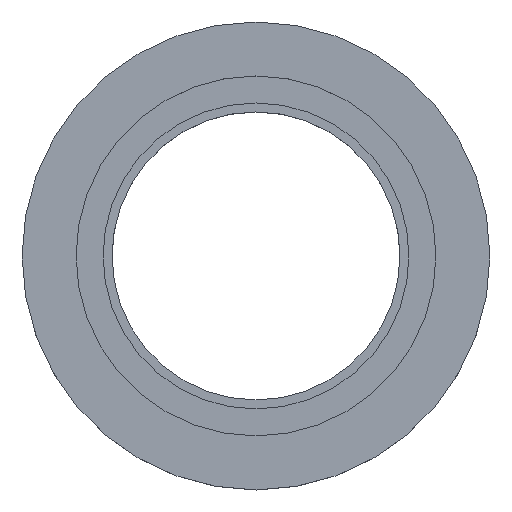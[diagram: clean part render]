
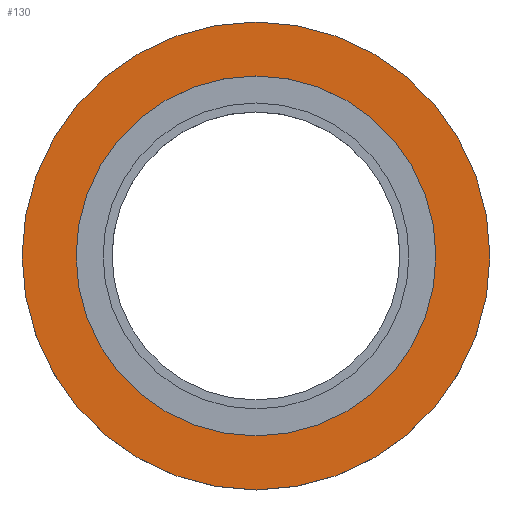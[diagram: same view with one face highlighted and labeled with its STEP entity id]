
A CAD part, top view. The second image highlights one B-rep face of the part: STEP entity #130.
In plain terms, the highlighted planar face has unit normal (0, 0, 1).
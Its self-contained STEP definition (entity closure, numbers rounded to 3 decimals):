
#28=FACE_BOUND('',#44,.T.);
#34=FACE_OUTER_BOUND('',#43,.T.);
#43=EDGE_LOOP('',(#104,#105));
#44=EDGE_LOOP('',(#106));
#54=CIRCLE('',#160,10.);
#55=CIRCLE('',#162,13.);
#56=CIRCLE('',#163,13.);
#66=VERTEX_POINT('',#230);
#67=VERTEX_POINT('',#234);
#68=VERTEX_POINT('',#235);
#78=EDGE_CURVE('',#66,#66,#54,.T.);
#80=EDGE_CURVE('',#67,#68,#55,.T.);
#81=EDGE_CURVE('',#68,#67,#56,.T.);
#104=ORIENTED_EDGE('',*,*,#80,.T.);
#105=ORIENTED_EDGE('',*,*,#81,.T.);
#106=ORIENTED_EDGE('',*,*,#78,.T.);
#124=PLANE('',#166);
#130=ADVANCED_FACE('',(#34,#28),#124,.T.);
#160=AXIS2_PLACEMENT_3D('',#231,#187,#188);
#162=AXIS2_PLACEMENT_3D('',#236,#192,#193);
#163=AXIS2_PLACEMENT_3D('',#237,#194,#195);
#166=AXIS2_PLACEMENT_3D('',#243,#201,#202);
#187=DIRECTION('center_axis',(0.,0.,-1.));
#188=DIRECTION('ref_axis',(-1.,0.,0.));
#192=DIRECTION('center_axis',(0.,0.,1.));
#193=DIRECTION('ref_axis',(1.,0.,0.));
#194=DIRECTION('center_axis',(0.,0.,1.));
#195=DIRECTION('ref_axis',(1.,0.,0.));
#201=DIRECTION('center_axis',(0.,0.,1.));
#202=DIRECTION('ref_axis',(1.,0.,0.));
#230=CARTESIAN_POINT('',(10.,0.,1.5));
#231=CARTESIAN_POINT('Origin',(0.,0.,1.5));
#234=CARTESIAN_POINT('',(13.,0.,1.5));
#235=CARTESIAN_POINT('',(-13.,0.,1.5));
#236=CARTESIAN_POINT('Origin',(0.,0.,1.5));
#237=CARTESIAN_POINT('Origin',(0.,0.,1.5));
#243=CARTESIAN_POINT('Origin',(0.,0.,1.5));
